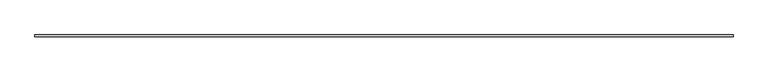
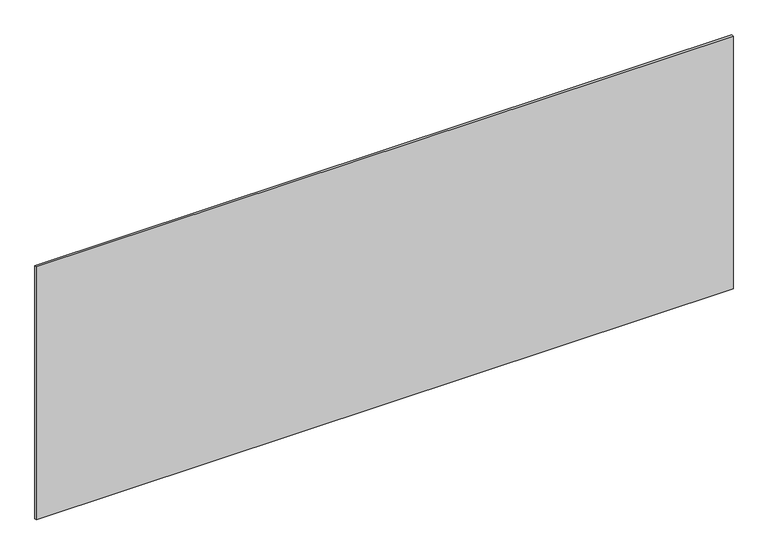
"""IFC4 building model written with IfcOpenShell, lengths in millimetres: plate geometry, システム パネル : 標準."""

import ifcopenshell
import ifcopenshell.guid

model = None  # the IFC model being written
_history = None  # IfcOwnerHistory: only IFC2X3 demands one
_inside = {}  # id of a spatial element -> (the spatial element, [elements in it])
_under = {}  # id of a project, library or spatial element -> (it, [spatial elements below it])
_declared = {}  # id of a project -> (the project, [libraries it declares])
_typed = {}  # id of a type object -> (the type object, [elements of that type])
_made_of = {}  # id of a material, layer set ... -> (it, [elements and type objects made of it])


def new_model(schema):
    """Start an empty IFC model of exactly this schema.

    Asked for "IFC4X3", IfcOpenShell would pick the latest addendum, in which some entities
    have other attributes; the version numbers below select the first issue.
    IFC2X3 requires an IfcOwnerHistory on every rooted entity: one is made here for all.
    """
    global model, _history
    if schema == "IFC4X3":
        model = ifcopenshell.file(schema_version=(4, 3, 0, 0))
    else:
        model = ifcopenshell.file(schema=schema)
    _inside.clear()
    _under.clear()
    _declared.clear()
    _typed.clear()
    _made_of.clear()
    _history = None
    if model.schema == "IFC2X3":
        org = make("IfcOrganization", Name="unknown")
        user = make(
            "IfcPersonAndOrganization",
            ThePerson=make("IfcPerson", FamilyName="unknown"),
            TheOrganization=org,
        )
        app = make(
            "IfcApplication",
            ApplicationDeveloper=org,
            Version="unknown",
            ApplicationFullName="unknown",
            ApplicationIdentifier="unknown",
        )
        _history = make(
            "IfcOwnerHistory",
            OwningUser=user,
            OwningApplication=app,
            ChangeAction="ADDED",
            CreationDate=0,
        )
    return model


def make(cls, **values):
    """One entity of the class cls with the attributes given. An attribute that is None is left unset."""
    return model.create_entity(
        cls, **{name: value for name, value in values.items() if value is not None}
    )


def rooted(cls, **values):
    """An entity with a GlobalId (a new one), such as an element, a storey or a relation."""
    return make(cls, GlobalId=ifcopenshell.guid.new(), OwnerHistory=_history, **values)


def si_unit(unit_type, name, prefix=None):
    """IfcSIUnit, for example si_unit("LENGTHUNIT", "METRE", prefix="MILLI")."""
    return make("IfcSIUnit", UnitType=unit_type, Prefix=prefix, Name=name)


def assignment(units):
    """IfcUnitAssignment: the units of a project."""
    return None if units is None else make("IfcUnitAssignment", Units=units)


def point(xyz):
    """IfcCartesianPoint."""
    return None if xyz is None else make("IfcCartesianPoint", Coordinates=xyz)


def direction(xyz):
    """IfcDirection."""
    return None if xyz is None else make("IfcDirection", DirectionRatios=xyz)


def frame(location, z_axis=None, x_axis=None):
    """IfcAxis2Placement3D, a coordinate frame: its origin and axes. An axis left out is left unset."""
    return make(
        "IfcAxis2Placement3D",
        Location=point(location),
        Axis=direction(z_axis),
        RefDirection=direction(x_axis),
    )


def origin():
    """The frame at (0, 0, 0) with its axes left unset."""
    return frame((0.0, 0.0, 0.0))


def origin_with_axes():
    """The frame at (0, 0, 0) with the z axis (0, 0, 1) and the x axis (1, 0, 0) written out."""
    return frame((0.0, 0.0, 0.0), z_axis=(0.0, 0.0, 1.0), x_axis=(1.0, 0.0, 0.0))


def place(relative_to, where):
    """IfcLocalPlacement: puts the frame where relative to a parent placement (None: the world)."""
    return make(
        "IfcLocalPlacement", PlacementRelTo=relative_to, RelativePlacement=where
    )


def context(
    kind, dimensions, precision=None, world=None, true_north=None, identifier=None
):
    """IfcGeometricRepresentationContext, for example the 3D "Model" context."""
    return make(
        "IfcGeometricRepresentationContext",
        ContextIdentifier=identifier,
        ContextType=kind,
        CoordinateSpaceDimension=dimensions,
        Precision=precision,
        WorldCoordinateSystem=world,
        TrueNorth=true_north,
    )


def project(units=None, contexts=None):
    """IfcProject with its units and contexts."""
    return rooted(
        "IfcProject",
        Name="project",
        RepresentationContexts=contexts,
        UnitsInContext=assignment(units),
    )


def spatial(cls, under=None, at=None, **own):
    """A site, building, storey or space (cls), placed at a placement, below another one or the project."""
    s = rooted(cls, ObjectPlacement=at, **own)
    if under is not None:
        _under.setdefault(under.id(), (under, []))[1].append(s)
    return s


def polyline(points):
    """IfcPolyline through the points."""
    return make("IfcPolyline", Points=[point(p) for p in points])


def outline(outer, holes=None, kind="AREA"):
    """IfcArbitraryClosedProfileDef: a profile drawn as a closed curve; with holes, ...WithVoids."""
    if holes is None:
        return make("IfcArbitraryClosedProfileDef", ProfileType=kind, OuterCurve=outer)
    return make(
        "IfcArbitraryProfileDefWithVoids",
        ProfileType=kind,
        OuterCurve=outer,
        InnerCurves=holes,
    )


def extrude(swept, where, along, depth):
    """IfcExtrudedAreaSolid: the profile swept, set in the frame where, extruded along a direction by depth."""
    return make(
        "IfcExtrudedAreaSolid",
        SweptArea=swept,
        Position=where,
        ExtrudedDirection=direction(along),
        Depth=depth,
    )


def shape(context_of_items, identifier, shape_type, items):
    """IfcShapeRepresentation: the items that make up one representation, for example the "Body"."""
    return make(
        "IfcShapeRepresentation",
        ContextOfItems=context_of_items,
        RepresentationIdentifier=identifier,
        RepresentationType=shape_type,
        Items=items,
    )


def source(mapping_origin, context_of_items, identifier, shape_type, items):
    """IfcRepresentationMap: a shape defined once, which mapped items show again and again."""
    return make(
        "IfcRepresentationMap",
        MappingOrigin=mapping_origin,
        MappedRepresentation=shape(context_of_items, identifier, shape_type, items),
    )


def transform(
    local_origin,
    x_axis=None,
    y_axis=None,
    z_axis=None,
    scale=None,
    scale2=None,
    scale3=None,
    uniform=True,
):
    """IfcCartesianTransformationOperator3D, or its non-uniform kind. x_axis, y_axis, z_axis: its Axis1, 2, 3."""
    if uniform:
        return make(
            "IfcCartesianTransformationOperator3D",
            Axis1=direction(x_axis),
            Axis2=direction(y_axis),
            LocalOrigin=point(local_origin),
            Scale=scale,
            Axis3=direction(z_axis),
        )
    return make(
        "IfcCartesianTransformationOperator3DnonUniform",
        Axis1=direction(x_axis),
        Axis2=direction(y_axis),
        LocalOrigin=point(local_origin),
        Scale=scale,
        Axis3=direction(z_axis),
        Scale2=scale2,
        Scale3=scale3,
    )


def mapped(mapping_source, mapping_target):
    """IfcMappedItem: shows the shape of a source again, moved by a transform."""
    return make(
        "IfcMappedItem", MappingSource=mapping_source, MappingTarget=mapping_target
    )


def made_of(thing, what):
    """Note that an element or type object is made of a material, layer set ...; save() writes the relation."""
    if what is not None:
        _made_of.setdefault(what.id(), (what, []))[1].append(thing)
    return thing


def element(
    cls,
    number,
    at=None,
    inside=None,
    cuts=None,
    type_object=None,
    material=None,
    context=None,
    identifier="Body",
    shape_type=None,
    held_by="IfcProductDefinitionShape",
    body=None,
    shapes=None,
    **own,
):
    """One element of the class cls, such as IfcWall. Its Tag is "e" and its number.

    at: its placement. inside: the storey or other place that contains it. cuts: it is an
    opening in that element (IfcRelVoidsElement). A single representation is given by context,
    identifier, shape_type and body (its items); several are given by shapes. held_by: the class
    of the entity that holds the representations. save() writes the other relations.
    """
    e = rooted(cls, Tag="e%d" % number, ObjectPlacement=at, **own)
    if body is not None:
        shapes = [shape(context, identifier, shape_type, body)]
    if shapes is not None:
        e.Representation = make(held_by, Representations=shapes)
    if inside is not None:
        _inside.setdefault(inside.id(), (inside, []))[1].append(e)
    if cuts is not None:
        rooted(
            "IfcRelVoidsElement", RelatingBuildingElement=cuts, RelatedOpeningElement=e
        )
    if type_object is not None:
        _typed.setdefault(type_object.id(), (type_object, []))[1].append(e)
    return made_of(e, material)


def aggregate(whole, parts):
    """IfcRelAggregates: a whole, such as a stair, and the parts it consists of."""
    return rooted("IfcRelAggregates", RelatingObject=whole, RelatedObjects=parts)


def save(model, path):
    """Write the relations noted so far, then the file.

    IfcRelAggregates (storeys below a building ...), IfcRelContainedInSpatialStructure (elements
    in a storey), IfcRelDefinesByType, IfcRelAssociatesMaterial and IfcRelDeclares: one each for
    every whole, place, type object, material and project.
    """
    for whole, parts in _under.values():
        aggregate(whole, parts)
    for where, things in _inside.values():
        rooted(
            "IfcRelContainedInSpatialStructure",
            RelatedElements=things,
            RelatingStructure=where,
        )
    for kind, things in _typed.values():
        rooted("IfcRelDefinesByType", RelatedObjects=things, RelatingType=kind)
    for what, things in _made_of.values():
        rooted("IfcRelAssociatesMaterial", RelatedObjects=things, RelatingMaterial=what)
    for by, libraries in _declared.values():
        rooted("IfcRelDeclares", RelatingContext=by, RelatedDefinitions=libraries)
    model.write(path)


def plate_2dcaf8a6(model_context):
    return source(origin(), model_context, "Body", "SweptSolid", [
        extrude(outline(polyline([(1715.0, -5.0), (-1715.0, -5.0), (-1715.0, 5.0), (1715.0, 5.0), (1715.0, -5.0)])), origin_with_axes(), (0.0, 0.0, 1.0), 1315.5633458),
    ])


if __name__ == "__main__":
    model = new_model("IFC4")
    model_context = context("Model", 3, world=origin())
    ifc_project = project(units=[si_unit("LENGTHUNIT", "METRE", prefix="MILLI")], contexts=[model_context])
    site = spatial("IfcSite", under=ifc_project)
    building = spatial("IfcBuilding", under=site)
    placement = place(None, origin())
    plate_shape = plate_2dcaf8a6(model_context)
    element("IfcPlate", 1, ObjectType="システム パネル : 標準", at=placement, inside=building, context=model_context, shape_type="MappedRepresentation", body=[
        mapped(plate_shape, transform((0.0, 0.0, 0.0), x_axis=(1.0, 0.0, 0.0), y_axis=(0.0, 1.0, 0.0), z_axis=(0.0, 0.0, 1.0))),
    ])
    save(model, "model.ifc")
